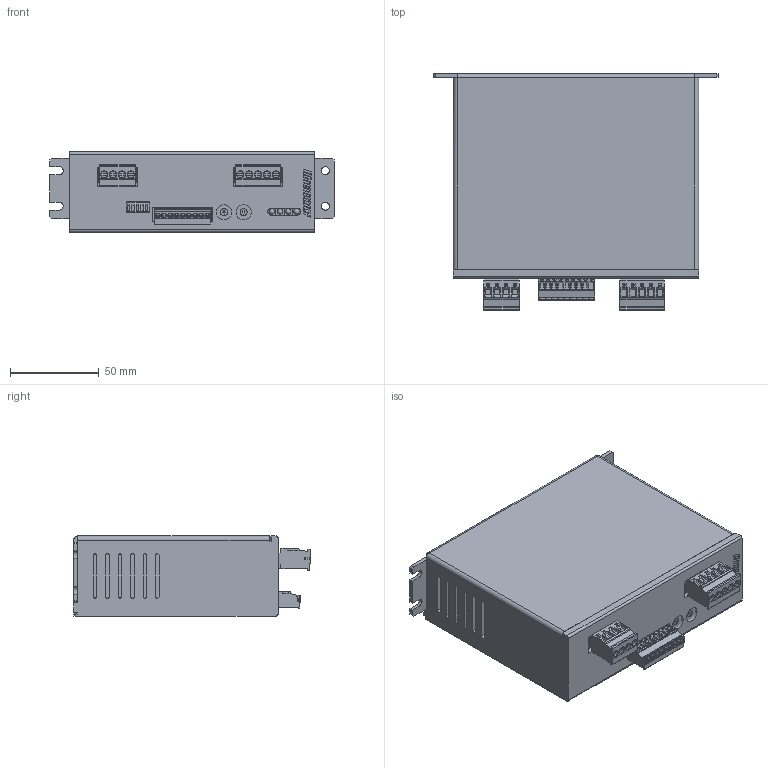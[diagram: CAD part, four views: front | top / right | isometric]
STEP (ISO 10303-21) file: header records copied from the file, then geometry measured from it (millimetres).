
FILE_DESCRIPTION( ( '' ), '1' );
FILE_NAME( 'D:/DIMA/02-驅動器/AC-五相/DS514B/DS514F 營業用CAD/DS514F/DS514F+connector.stp', '2016-07-25T05:19:10', ( 'Dimamotor' ), ( 'Dimamotor' ), 'PSStep 17.0.49', ' ', ' ' );
FILE_SCHEMA( ( 'AUTOMOTIVE_DESIGN { 1 0 10303 214 1 1 1 1 }' ) );
Length unit declared in the file: millimetre
Products named in the file (16): LEDx4pcs; LED含座-綠_AL-33-1G; LED含座-橘_AL-33-1O; LED含座-紅_AL-33-1R; DS514F; DS514F-CASE; 數字開關-ERD1xxxF_P5.08; 5EHDRC-05P; PRT0001; 指撥開關_DP-05; ECH350R-09P; 指撥開關_DP-03; Assem1; 5ESDPL-04P; 5ESDPL-05P; EC350R-09P
Assembly tree (17 placements, depth 4):
  Assem1
    5ESDPL-04P
    5ESDPL-05P
    EC350R-09P
    DS514F
      DS514F-CASE
      數字開關-ERD1xxxF_P5.08  x2
      5EHDRC-05P
      PRT0001
      指撥開關_DP-05
      ECH350R-09P
      指撥開關_DP-03
      LEDx4pcs
        LED含座-綠_AL-33-1G  x2
        LED含座-橘_AL-33-1O
        LED含座-紅_AL-33-1R
Bounding box: 160 x 133 x 45 mm (x, y, z)
Volume: 713922.9 mm3; surface area: 88817.4 mm2
Topology: 15 solids, 15 shells, 3325 faces, 8538 edges, 5533 vertices
Faces by surface type: plane 2372, cylinder 630, cone 134, torus 91, extrusion 44, bspline 40, sphere 14
Full cylindrical faces by diameter (mm): 0.48 x1, 0.486 x1, 0.7 x8, 0.8 x17, 1 x28, 1.2 x9, 1.6 x9, 2.75 x9, 2.8 x9, 2.95 x18, 2.973 x8, 3 x4, 3.95 x8, 4 x2, 4.05 x18, 4.5 x2, 8.5 x2
Entity records: 128464 total; most frequent: CARTESIAN_POINT 23693, ORIENTED_EDGE 16064, DIRECTION 15729, EDGE_CURVE 8032, VECTOR 6023, LINE 5979, VERTEX_POINT 5358, AXIS2_PLACEMENT_3D 4853
